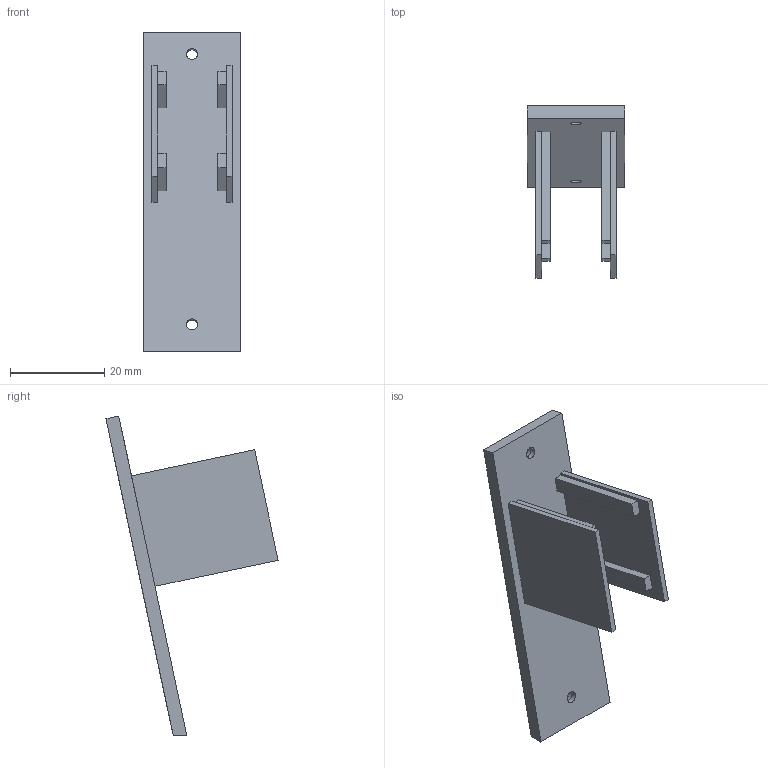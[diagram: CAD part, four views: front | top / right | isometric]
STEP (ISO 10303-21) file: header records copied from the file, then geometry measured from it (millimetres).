
FILE_DESCRIPTION(('Open CASCADE Model'),'2;1');
FILE_NAME('Open CASCADE Shape Model','2026-11-18T20:35:56',('Author'),( 'Open CASCADE'),'Open CASCADE STEP processor 7.9','Open CASCADE 7.9' ,'Unknown');
FILE_SCHEMA(('AUTOMOTIVE_DESIGN { 1 0 10303 214 1 1 1 1 }'));
Length unit declared in the file: millimetre
Products named in the file (1): Open CASCADE STEP translator 7.9 3
Bounding box: 20.8 x 36.6 x 67.98 mm (x, y, z)
Volume: 6028.8 mm3; surface area: 6459.9 mm2
Topology: 1 solids, 1 shells, 38 faces, 96 edges, 64 vertices
Faces by surface type: plane 34, cylinder 4
Full cylindrical faces by diameter (mm): 2.4 x2, 4 x2
Entity records: 2386 total; most frequent: CARTESIAN_POINT 399, DIRECTION 366, LINE 264, VECTOR 264, ORIENTED_EDGE 192, PCURVE 192, DEFINITIONAL_REPRESENTATION 192, EDGE_CURVE 96
